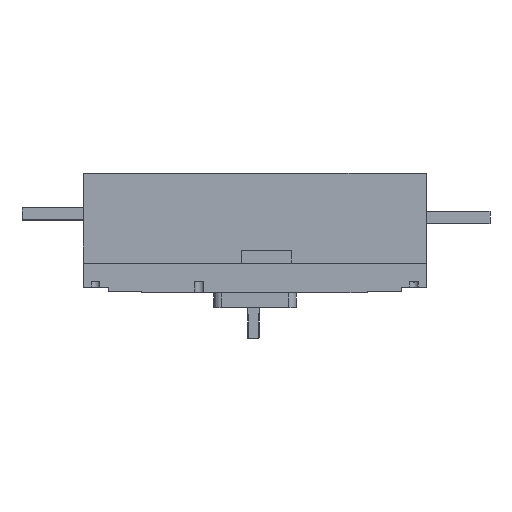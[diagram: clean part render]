
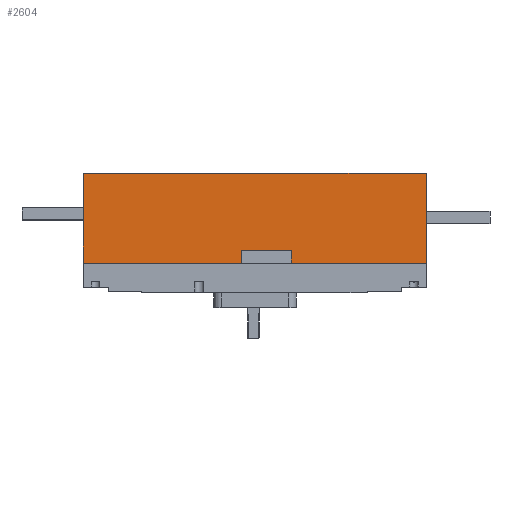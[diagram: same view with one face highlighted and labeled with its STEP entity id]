
A CAD part, front view. The second image highlights one B-rep face of the part: STEP entity #2604.
In plain terms, the highlighted planar face has unit normal (0, -1, 0).
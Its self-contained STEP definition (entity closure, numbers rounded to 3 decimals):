
#2604=ADVANCED_FACE('',(#6879),#5010,.T.);
#5010=PLANE('',#46574);
#6879=FACE_OUTER_BOUND('',#9243,.T.);
#9243=EDGE_LOOP('',(#12663,#12664,#12665,#12666,#12667,#12668,#12669,#12670));
#12663=ORIENTED_EDGE('',*,*,#30019,.T.);
#12664=ORIENTED_EDGE('',*,*,#29377,.T.);
#12665=ORIENTED_EDGE('',*,*,#30020,.F.);
#12666=ORIENTED_EDGE('',*,*,#30021,.T.);
#12667=ORIENTED_EDGE('',*,*,#30022,.F.);
#12668=ORIENTED_EDGE('',*,*,#29354,.T.);
#12669=ORIENTED_EDGE('',*,*,#30023,.F.);
#12670=ORIENTED_EDGE('',*,*,#29991,.T.);
#24975=VERTEX_POINT('',#62469);
#24976=VERTEX_POINT('',#62471);
#24998=VERTEX_POINT('',#62515);
#24999=VERTEX_POINT('',#62517);
#25522=VERTEX_POINT('',#63678);
#25564=VERTEX_POINT('',#63762);
#25591=VERTEX_POINT('',#63820);
#25592=VERTEX_POINT('',#63822);
#29354=EDGE_CURVE('',#24976,#24975,#35900,.T.);
#29377=EDGE_CURVE('',#24999,#24998,#35920,.T.);
#29991=EDGE_CURVE('',#25522,#25564,#36404,.T.);
#30019=EDGE_CURVE('',#25564,#24999,#36432,.T.);
#30020=EDGE_CURVE('',#25591,#24998,#36433,.T.);
#30021=EDGE_CURVE('',#25591,#25592,#36434,.T.);
#30022=EDGE_CURVE('',#24976,#25592,#36435,.T.);
#30023=EDGE_CURVE('',#25522,#24975,#36436,.T.);
#35900=LINE('',#62470,#41136);
#35920=LINE('',#62516,#41156);
#36404=LINE('',#63763,#41640);
#36432=LINE('',#63818,#41668);
#36433=LINE('',#63819,#41669);
#36434=LINE('',#63821,#41670);
#36435=LINE('',#63823,#41671);
#36436=LINE('',#63824,#41672);
#41136=VECTOR('',#50001,1.);
#41156=VECTOR('',#50027,1.);
#41640=VECTOR('',#50905,1.);
#41668=VECTOR('',#50935,1.);
#41669=VECTOR('',#50936,1.);
#41670=VECTOR('',#50937,1.);
#41671=VECTOR('',#50938,1.);
#41672=VECTOR('',#50939,1.);
#46574=AXIS2_PLACEMENT_3D('',#63825,#50940,#50941);
#50001=DIRECTION('',(1.,0.,0.));
#50027=DIRECTION('',(1.,0.,0.));
#50905=DIRECTION('',(-1.,0.,0.));
#50935=DIRECTION('',(0.,0.,-1.));
#50936=DIRECTION('',(0.,0.,-1.));
#50937=DIRECTION('',(1.,0.,0.));
#50938=DIRECTION('',(0.,0.,1.));
#50939=DIRECTION('',(0.,0.,-1.));
#50940=DIRECTION('',(0.,-1.,0.));
#50941=DIRECTION('',(0.,0.,-1.));
#62469=CARTESIAN_POINT('',(406.5,1.,0.));
#62470=CARTESIAN_POINT('',(247.,1.,0.));
#62471=CARTESIAN_POINT('',(247.,1.,0.));
#62515=CARTESIAN_POINT('',(187.5,1.,0.));
#62516=CARTESIAN_POINT('',(0.5,1.,0.));
#62517=CARTESIAN_POINT('',(0.5,1.,0.));
#63678=CARTESIAN_POINT('',(406.5,1.,106.5));
#63762=CARTESIAN_POINT('',(0.5,1.,106.5));
#63763=CARTESIAN_POINT('',(406.5,1.,106.5));
#63818=CARTESIAN_POINT('',(0.5,1.,106.5));
#63819=CARTESIAN_POINT('',(187.5,1.,15.));
#63820=CARTESIAN_POINT('',(187.5,1.,15.));
#63821=CARTESIAN_POINT('',(187.5,1.,15.));
#63822=CARTESIAN_POINT('',(247.,1.,15.));
#63823=CARTESIAN_POINT('',(247.,1.,0.));
#63824=CARTESIAN_POINT('',(406.5,1.,106.5));
#63825=CARTESIAN_POINT('',(0.,1.,117.15));
